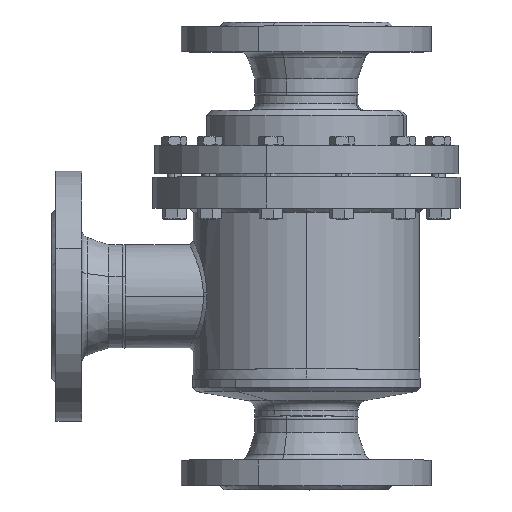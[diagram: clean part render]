
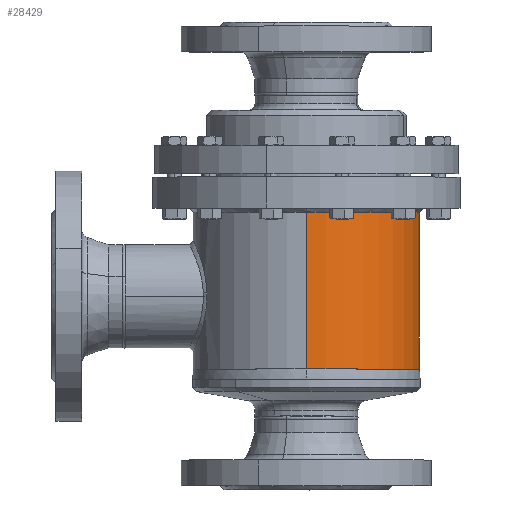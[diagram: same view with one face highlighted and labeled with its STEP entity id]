
A CAD part, top view. The second image highlights one B-rep face of the part: STEP entity #28429.
In plain terms, the highlighted cylindrical face has radius 83.5 mm (diameter 167 mm), a partial arc.
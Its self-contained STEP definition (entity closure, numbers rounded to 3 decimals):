
#568 = FACE_OUTER_BOUND ( 'NONE', #27954, .T. ) ;
#569 = CYLINDRICAL_SURFACE ( 'NONE', #570, 83.5 ) ;
#570 = AXIS2_PLACEMENT_3D ( 'NONE', #571, #572, #593 ) ;
#571 = CARTESIAN_POINT ( 'NONE',  ( 0., 45.442, 0. ) ) ;
#572 = DIRECTION ( 'NONE',  ( 0., 1., 0. ) ) ;
#593 = DIRECTION ( 'NONE',  ( 0., 0., 1. ) ) ;
#1517 = LINE ( 'NONE', #1518, #1519 ) ;
#1518 = CARTESIAN_POINT ( 'NONE',  ( 0., 45.442, 83.5 ) ) ;
#1519 = VECTOR ( 'NONE', #1542, 1000. ) ;
#1542 = DIRECTION ( 'NONE',  ( 0., 1., 0. ) ) ;
#20888 = CARTESIAN_POINT ( 'NONE',  ( 0., -56.922, -83.5 ) ) ;
#21226 = CARTESIAN_POINT ( 'NONE',  ( 0., -56.922, 83.5 ) ) ;
#21590 = CIRCLE ( 'NONE', #21592, 83.5 ) ;
#21592 = AXIS2_PLACEMENT_3D ( 'NONE', #21593, #21594, #21595 ) ;
#21593 = CARTESIAN_POINT ( 'NONE',  ( 0., -56.922, 0. ) ) ;
#21594 = DIRECTION ( 'NONE',  ( 0., 1., 0. ) ) ;
#21595 = DIRECTION ( 'NONE',  ( 0., 0., 1. ) ) ;
#6600 = CARTESIAN_POINT ( 'NONE',  ( 0., 61.932, 83.5 ) ) ;
#6782 = CIRCLE ( 'NONE', #6783, 83.5 ) ;
#6783 = AXIS2_PLACEMENT_3D ( 'NONE', #6784, #6811, #6812 ) ;
#6784 = CARTESIAN_POINT ( 'NONE',  ( 0., 61.932, 0. ) ) ;
#6811 = DIRECTION ( 'NONE',  ( 0., 1., 0. ) ) ;
#6812 = DIRECTION ( 'NONE',  ( 0., 0., 1. ) ) ;
#7050 = EDGE_CURVE ( 'NONE', #26179, #8755, #1517, .T. ) ;
#7760 = ORIENTED_EDGE ( 'NONE', *, *, #7050, .F. ) ;
#24201 = ORIENTED_EDGE ( 'NONE', *, *, #9108, .F. ) ;
#24763 = VERTEX_POINT ( 'NONE', #8555 ) ;
#8555 = CARTESIAN_POINT ( 'NONE',  ( 0., 61.932, -83.5 ) ) ;
#24999 = EDGE_CURVE ( 'NONE', #25943, #24763, #9036, .T. ) ;
#8755 = VERTEX_POINT ( 'NONE', #6600 ) ;
#25388 = ORIENTED_EDGE ( 'NONE', *, *, #24999, .T. ) ;
#9036 = LINE ( 'NONE', #9037, #9038 ) ;
#9037 = CARTESIAN_POINT ( 'NONE',  ( 0., 45.442, -83.5 ) ) ;
#9038 = VECTOR ( 'NONE', #9039, 1000. ) ;
#9039 = DIRECTION ( 'NONE',  ( 0., 1., 0. ) ) ;
#9108 = EDGE_CURVE ( 'NONE', #8755, #24763, #6782, .T. ) ;
#25943 = VERTEX_POINT ( 'NONE', #20888 ) ;
#26179 = VERTEX_POINT ( 'NONE', #21226 ) ;
#26425 = EDGE_CURVE ( 'NONE', #26179, #25943, #21590, .T. ) ;
#26960 = ORIENTED_EDGE ( 'NONE', *, *, #26425, .T. ) ;
#27954 = EDGE_LOOP ( 'NONE', ( #26960, #25388, #24201, #7760 ) ) ;
#28429 = ADVANCED_FACE ( 'NONE', ( #568 ), #569, .T. ) ;
